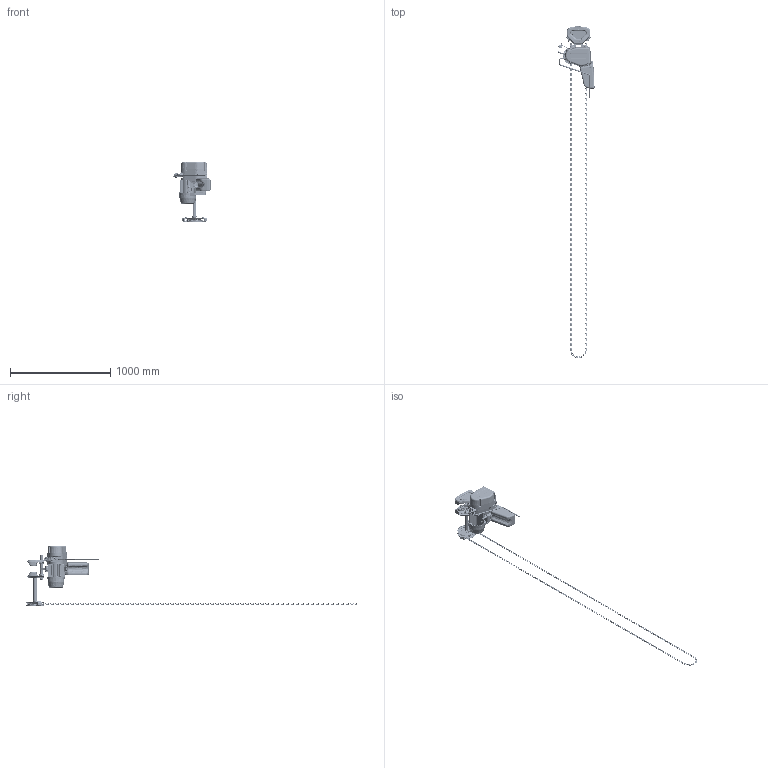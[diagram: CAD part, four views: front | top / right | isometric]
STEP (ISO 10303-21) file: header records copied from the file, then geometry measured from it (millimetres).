
FILE_DESCRIPTION (( 'STEP AP214' ), '1' );
FILE_NAME ('EQG001.STEP', '2019-04-15T18:25:06', ( 'harrington' ), ( 'Microsoft' ), 'SwSTEP 2.0', 'SolidWorks 2018', '' );
FILE_SCHEMA (( 'AUTOMOTIVE_DESIGN' ));
Length unit declared in the file: millimetre
Products named in the file (66): HCCF005; E4YS005-28223-0-HSM_______; T7GA0105112; ECP5924AA1-0-X_______; T6G156010; J1PW01-016010_M1.6X10 SPLIT PIN; T6GA0109103; ECP5924AQ1_______; T7G117010; J1AA4-5002020_J1AA4-5002020; T6GA0109113; ECP5924AB1-0-X_______; T7G115010; N6TA100E91251-0_______; T7GA0109142; body500kg-2012-0903_____________; 9047115_9047115; 9012708_9012708; T7GA0109141; MS104010; E3ES002-95412-2-HSM_______; T6GA0109112; EQG001; T6G5102010; E4YS005-98222-0-HSM_______; EQ500kg_SUSP. EYE MOUNTED; 6302Z BEARING; ER1BS95412_______; J1AP26001616_B18.6.7M - M6 x 1.0 x 16 Type I Cross Recessed PHMS --16N; T6GA0109102; chain backet2011018_______; EQ1CI9001; GTS2010EHWK; EQ1CI9401_______; J1BG10601010_M6X10X10; 9009423_9009423; EQ1CI2104_______; C2BA100-90741_ISO 7040-M8-N; L4082090_Prev Tor Nut Flange - DIN EN 1664 - M14 - N; EQ1CI9107_______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
Assembly tree (374 placements, depth 5):
  EQG001
    EQ500kg_SUSP. EYE MOUNTED
      body500kg-2012-0903_____________
      CableHolder-X_______  x2
        ECP5924AB1-0-X_______
        ECP5924AQ1_______
        ECP5924AA1-0-X_______
        ECP5924AD1-0-X_______
        ECP6912AA1-1-X_______
      EQ1CI9110_____________
      Pwer suply cable(ECH)-X_______
      Push bottan_______
        code (ECH)-X__500_______
        stop(ECH)-X__500_______
      EQ1CI9107_______
      EQ1CI2104_______
      chain backet2011018_______
        EQ1CI9401_______
      ER1BS95412_______
      E4YS005-28223-0-HSM_______
        E4YS005-98222-0-HSM_______
        E3ES002-95412-2-HSM_______
        9012708_9012708  x2
        N6TA100E91251-0_______
        J1AA4-5002020_J1AA4-5002020  x2
        J1PW01-016010_M1.6X10 SPLIT PIN
      J1WH012-10050_J1WH012-10050  x8
      9091227_c  x8
      E2YS005-9116
      ER1BS9135
      E2YS005-9109
      E5FE003S9111
      EQ1CI9121  x2
      J1BE1-0809028_B18.3.1M - 8 x 1.25 x 90 Hex SHCS -- 28CHX
      C2BA100-90741_ISO 7040-M8-N
      J1BG10601010_M6X10X10  x2
      EQ1CI9001
      J1AP26001616_B18.6.7M - M6 x 1.0 x 16 Type I Cross Recessed PHMS --16N  x2
    GTS2010 Extended Hand Wheel_4" FLANGE
      T7GA0105112
        T6GA0109112
        T7GA0109141
        T7GA0109142
        T6GA0109113
        T6GA0109103  x2
      GTS2010EHWK
        T6GA0109111
        T7GA0109141
        T7GA0109142
        T6GA0109113
        T6GA0109103  x2
        T7KB0109122
        T6G5121010
          T6GA0109125
          T6GA0109126
        T6G123010
        T7KB0109121
        9012515_9012515
        L4082090_Prev Tor Nut Flange - DIN EN 1664 - M14 - N
        9009423_9009423
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Bounding box: 370.69 x 3318.8 x 600.04 mm (x, y, z)
Volume: 5717050.6 mm3; surface area: 2608107.9 mm2
Topology: 367 solids, 383 shells, 13391 faces, 32092 edges, 18993 vertices
Faces by surface type: cylinder 3960, plane 3708, torus 2677, bspline 1539, cone 1165, sphere 342
Entity records: 320203 total; most frequent: CARTESIAN_POINT 130649, ORIENTED_EDGE 40742, DIRECTION 37689, EDGE_CURVE 20373, AXIS2_PLACEMENT_3D 15142, VERTEX_POINT 12382, EDGE_LOOP 8839, ADVANCED_FACE 8343
